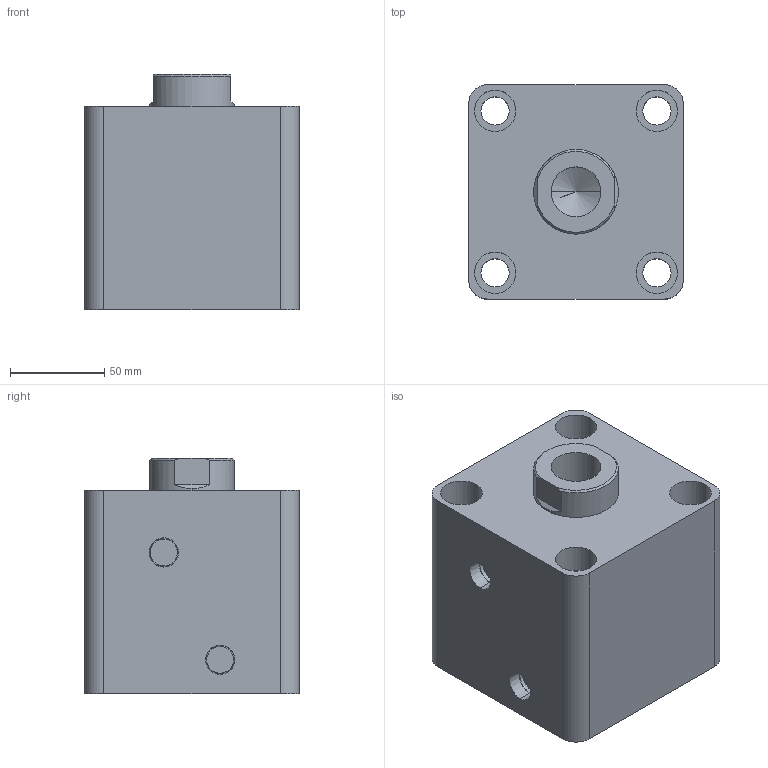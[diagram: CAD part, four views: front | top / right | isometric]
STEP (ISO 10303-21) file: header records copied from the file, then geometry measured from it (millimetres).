
FILE_DESCRIPTION (( 'STEP AP203' ), '1' );
FILE_NAME ('HTB-SD80-30N.STEP', '2019-10-07T08:17:52', ( '微软用户' ), ( '微软中国' ), 'SwSTEP 2.0', 'SolidWorks 2012', '' );
FILE_SCHEMA (( 'CONFIG_CONTROL_DESIGN' ));
Length unit declared in the file: millimetre
Products named in the file (3): HTB-SD80-30N; HTB-SD80-30N活塞杆; HTB-SD80-30掛极
Assembly tree (2 placements, depth 2):
  HTB-SD80-30N
    HTB-SD80-30掛极
    HTB-SD80-30N活塞杆
Bounding box: 114 x 114 x 125 mm (x, y, z)
Volume: 1192227 mm3; surface area: 154142.7 mm2
Topology: 2 solids, 2 shells, 83 faces, 184 edges, 119 vertices
Faces by surface type: cylinder 42, plane 27, cone 8, torus 6
Entity records: 2655 total; most frequent: DIRECTION 456, CARTESIAN_POINT 417, ORIENTED_EDGE 364, AXIS2_PLACEMENT_3D 194, EDGE_CURVE 182, VERTEX_POINT 119, EDGE_LOOP 107, CIRCLE 106
